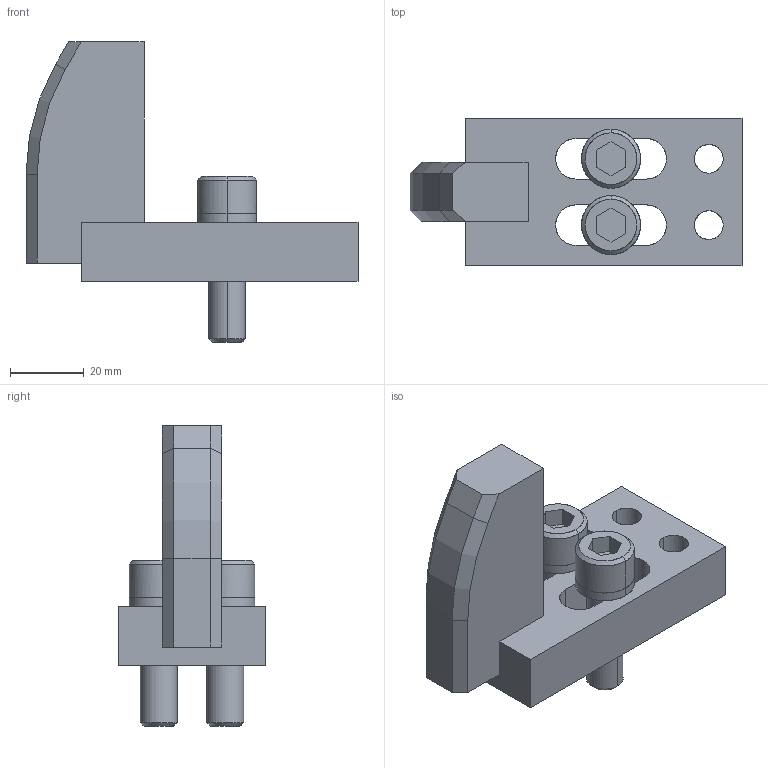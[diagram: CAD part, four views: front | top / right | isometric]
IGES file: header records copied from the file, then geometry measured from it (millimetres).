
Global section: file name: E:\UnigraphicsGraphicData\MISUMI_PRESS-PARTS\IGES\3d_ngnbc-65-20-m10_01531_r00.igs; native system: NX V5.0; preprocessor: UGS NX IGES V5.0; author: MISUMI; date: 20110105.162052; units: millimetre
Bounding box: 90 x 40 x 81.5 mm (x, y, z)
Surface area: 23353.5 mm2 (no closed solid volume)
Topology: 0 solids, 0 shells, 104 faces, 665 edges, 665 vertices
Faces by surface type: bspline 104
